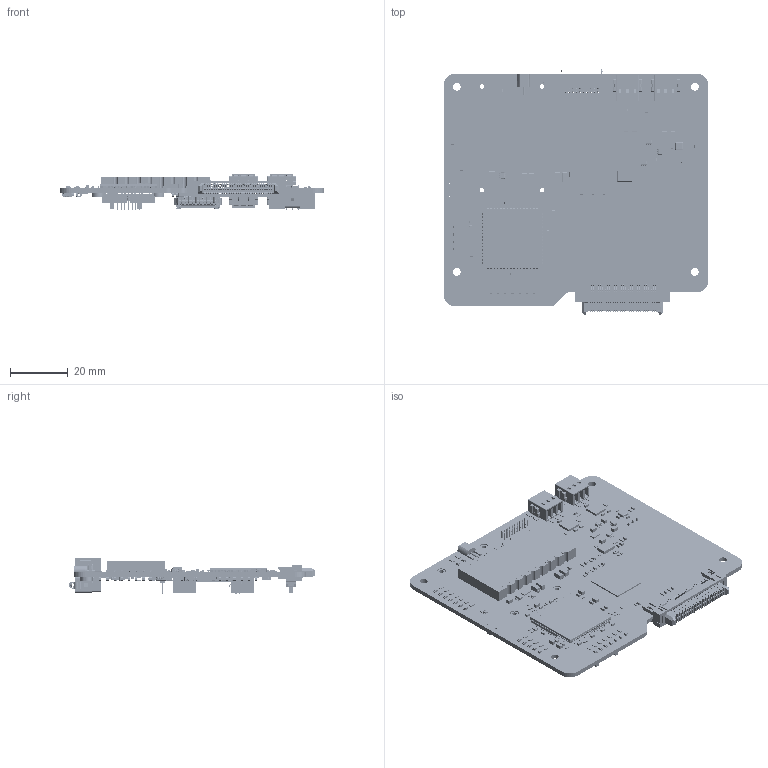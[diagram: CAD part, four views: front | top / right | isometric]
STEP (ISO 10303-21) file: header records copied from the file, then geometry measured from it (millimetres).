
FILE_DESCRIPTION(('Open CASCADE Model'),'2;1');
FILE_NAME('Open CASCADE Shape Model','2026-05-25T20:33:40',('Author'),( 'Open CASCADE'),'Open CASCADE STEP processor 7.5','Open CASCADE 7.5' ,'Unknown');
FILE_SCHEMA(('AUTOMOTIVE_DESIGN { 1 0 10303 214 1 1 1 1 }'));
Length unit declared in the file: millimetre
Products named in the file (635): PCB; Board; Open CASCADE STEP translator 7.5 1.1.1; PM1; 726102560; Open CASCADE STEP translator 7.5 16.1; Body; Open CASCADE STEP translator 7.5 16.2.1; Thermal Shape; Pin Shape; Open CASCADE STEP translator 7.5 16.4.1; PM2; D_; 150060xxx; housing; cover; base; Polarity Mark; SW1; 434331013822; Frame; washer; Contact plate; Stem; Cover; R74; 726101600; Mid Body; Terminal; Open CASCADE STEP translator 7.5 8.2.1; Mark; R73; R72; R71; R70; R69; R68; R67; 726101408; R66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
Assembly tree (1048 placements, depth 5):
  PCB
    Board
      Open CASCADE STEP translator 7.5 1.1.1
    PM1
      726102560
        Open CASCADE STEP translator 7.5 16.1
        Body
          Open CASCADE STEP translator 7.5 16.2.1
        Thermal Shape
        Pin Shape  x16
          Open CASCADE STEP translator 7.5 16.4.1
    PM2
      726102560
        Open CASCADE STEP translator 7.5 16.1
        Body
          Open CASCADE STEP translator 7.5 16.2.1
        Thermal Shape
        Pin Shape  x16
          Open CASCADE STEP translator 7.5 16.4.1
    D_
      150060xxx
        housing
        cover
        base  x2
        Polarity Mark
    SW1
      434331013822
        Frame
        washer
        Contact plate
        Stem
        Cover
    R74
      726101600
        Mid Body
        Terminal  x2
          Open CASCADE STEP translator 7.5 8.2.1
        Mark
    R73
      726101600
        Mid Body
        Terminal  x2
          Open CASCADE STEP translator 7.5 8.2.1
        Mark
    R72
      726101600
        Mid Body
        Terminal  x2
          Open CASCADE STEP translator 7.5 8.2.1
        Mark
    R71
      726101600
        Mid Body
        Terminal  x2
          Open CASCADE STEP translator 7.5 8.2.1
        Mark
    R70
      726101600
        Mid Body
        Terminal  x2
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Bounding box: 92 x 85.4 x 12.8 mm (x, y, z)
Volume: 18718.1 mm3; surface area: 35167.5 mm2
Topology: 1235 solids, 1240 shells, 28481 faces, 69041 edges, 42118 vertices
Faces by surface type: plane 18350, cylinder 6503, bspline 2392, sphere 840, torus 294, cone 98, revolution 4
Full cylindrical faces by diameter (mm): 0.15 x1, 0.155 x1, 0.214 x2, 0.279 x1, 0.319 x1, 0.35 x1, 0.381 x2, 0.6 x21, 0.65 x2, 0.7 x2, 0.9 x3, 1.02 x2, 1.4 x4, 1.438 x1, 1.567 x4, 1.7 x1, 1.9 x5, 2 x1, 2.25 x1, 2.42 x1, 2.5 x1, 2.7 x4, 2.8 x4, 2.9 x1, 3 x4, 3.02 x1, 4.35 x4
Entity records: 337771 total; most frequent: CARTESIAN_POINT 73237, ORIENTED_EDGE 49876, DIRECTION 49477, EDGE_CURVE 24939, LINE 17747, VECTOR 17747, VERTEX_POINT 16150, AXIS2_PLACEMENT_3D 15863
